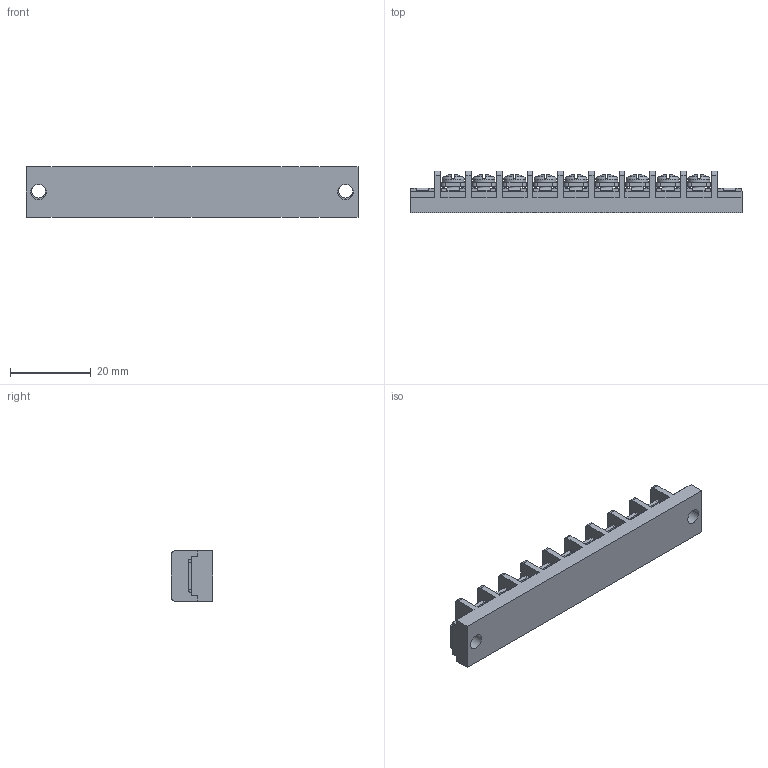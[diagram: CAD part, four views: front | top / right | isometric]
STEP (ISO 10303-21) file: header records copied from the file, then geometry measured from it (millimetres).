
FILE_DESCRIPTION(/* description */ ('Alibre Inc.'),/* implementation_level */ '2;1');
FILE_NAME(/* name */ 'export0',/* time_stamp */ '2015-10-26T18:13:31+09:00',/* author */ (''),/* organization */ (''),/* preprocessor_version */ 'ST-DEVELOPER v14',/* originating_system */ 'Alibre',/* authorisation */ '');
FILE_SCHEMA (('CONFIG_CONTROL_DESIGN'));
Length unit declared in the file: centimetre
Products named in the file (1): ID_1
Bounding box: 82.4 x 10.3 x 12.5 mm (x, y, z)
Volume: 7036.4 mm3; surface area: 6249.3 mm2
Topology: 1 solids, 17 shells, 1273 faces, 3485 edges, 2295 vertices
Faces by surface type: plane 988, cylinder 109, bspline 104, cone 36, torus 18, sphere 18
Full cylindrical faces by diameter (mm): 3 x9, 3.5 x2, 3.8 x2, 5.5 x9
Entity records: 38204 total; most frequent: CARTESIAN_POINT 8512, ORIENTED_EDGE 6810, DIRECTION 4682, EDGE_CURVE 3405, VECTOR 2426, LINE 2426, VERTEX_POINT 2255, AXIS2_PLACEMENT_3D 1575
